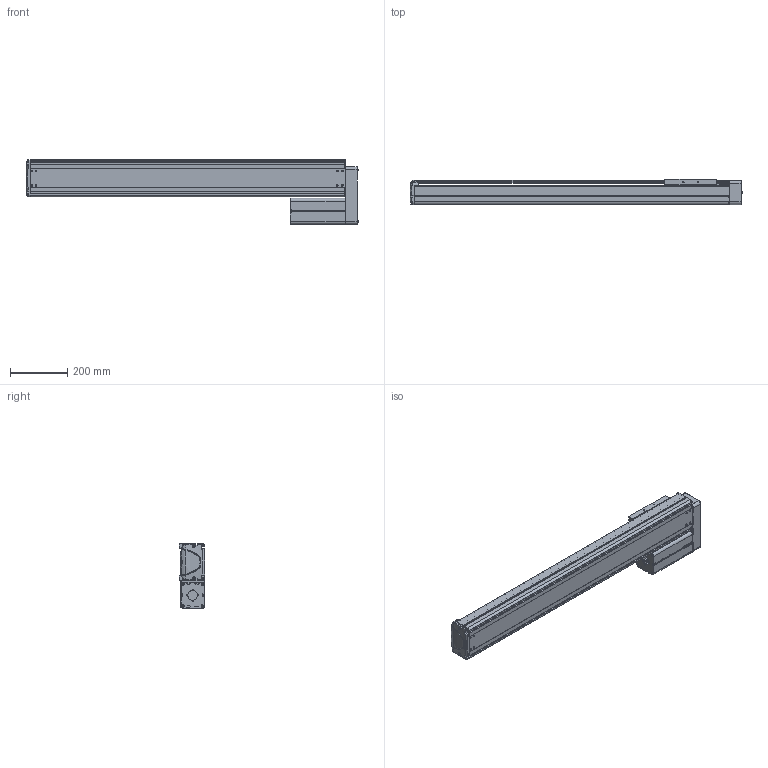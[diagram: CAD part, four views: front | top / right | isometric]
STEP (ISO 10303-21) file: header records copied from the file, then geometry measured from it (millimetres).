
FILE_DESCRIPTION((''),'2;1');
FILE_NAME('BE30E-UL-L_B-85_IGS_PRT','2017-06-17T',(' '),(''),'PRO/ENGINEER BY PARAMETRIC TECHNOLOGY CORPORATION, 2015030','PRO/ENGINEER BY PARAMETRIC TECHNOLOGY CORPORATION, 2015030','');
FILE_SCHEMA(('CONFIG_CONTROL_DESIGN'));
Length unit declared in the file: millimetre
Products named in the file (1): BE30E-UL-L_B-85_IGS_PRT
Bounding box: 1161.9 x 89.8 x 227 mm (x, y, z)
Volume: 3924920.1 mm3; surface area: 1683867.3 mm2
Topology: 2 solids, 129 shells, 2065 faces, 5579 edges, 3629 vertices
Faces by surface type: plane 1000, cylinder 875, cone 101, torus 37, bspline 28, sphere 24
Entity records: 67048 total; most frequent: CARTESIAN_POINT 14232, DIRECTION 11165, ORIENTED_EDGE 10599, EDGE_CURVE 5541, AXIS2_PLACEMENT_3D 3948, VERTEX_POINT 3629, VECTOR 3269, LINE 3269
